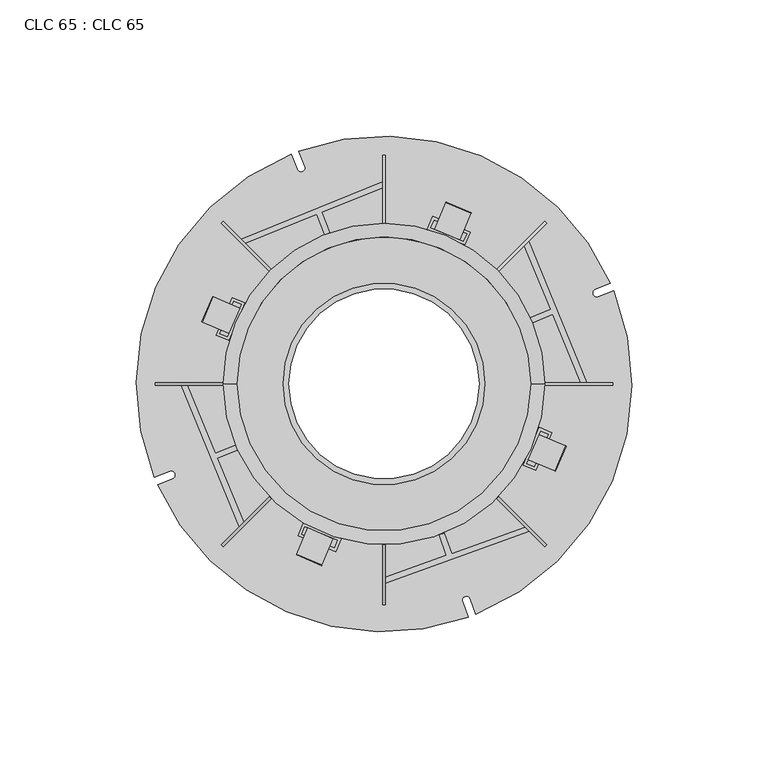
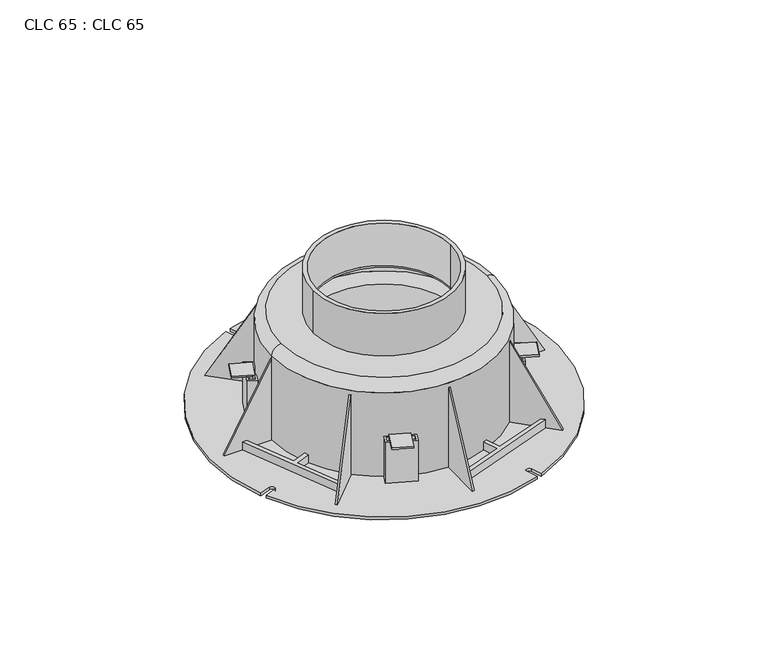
"""IFC4 building model written with IfcOpenShell, lengths in millimetres: proxy geometry, CLC 65 : CLC 65."""

from ifc_helpers import new_model, si_unit, point, frame, frame_2d, origin, origin_with_axes, origin_2d, place, context, project, spatial, polyline, circle_curve, ellipse_curve, trimmed, segment, composite_curve, outline, extrude, source, transform, mapped, element, save
from ifc_brep_helpers import plane_surface, cylinder_surface, revolved_surface, extruded_surface, advanced_brep


def clc_65_clc_65_d5194010(model_context):
    return source(origin(), model_context, "Body", "SolidModel", [
        extrude(outline(composite_curve([segment(trimmed(circle_curve(origin_2d(), 37.0), [point((-37.0, 0.0))], [point((37.0, 0.0))], False, "CARTESIAN"), True, "CONTINUOUS"), segment(trimmed(circle_curve(origin_2d(), 37.0), [point((37.0, 0.0))], [point((-37.0, 0.0))], False, "CARTESIAN"), True, "CONTINUOUS")], self_intersect=False), holes=[composite_curve([segment(trimmed(circle_curve(origin_2d(), 34.9), [point((-34.9, 0.0))], [point((34.9, 0.0))], True, "CARTESIAN"), True, "CONTINUOUS"), segment(trimmed(circle_curve(origin_2d(), 34.9), [point((34.9, 0.0))], [point((-34.9, 0.0))], True, "CARTESIAN"), True, "CONTINUOUS")], self_intersect=False)]), frame((0.0, 0.0, 53.0), z_axis=(0.0, 0.0, 1.0), x_axis=(1.0, 0.0, 0.0)), (0.0, 0.0, 1.0), 23.5),
        extrude(outline(polyline([(20.2073151, -55.4189041), (22.0886692, -54.7402975), (24.8030954, -62.2657138), (51.815281, -52.5223878), (53.377805, -54.0849118), (0.5, -73.1579962), (0.5, -71.031868), (22.9217414, -62.9443204), (20.2073151, -55.4189041)])), frame((0.0, 0.0, 1.5), z_axis=(0.0, 0.0, 1.0), x_axis=(1.0, 0.0, 0.0)), (0.0, 0.0, 1.0), 4.5),
        extrude(outline(polyline([(-54.5668459, -22.4160889), (-53.8065312, -24.2659326), (-61.2059058, -27.3071915), (-51.5375008, -50.8303941), (-53.0699749, -52.3628681), (-74.3864265, -0.5), (-72.2240816, -0.5), (-61.9662205, -25.4573479), (-54.5668459, -22.4160889)])), frame((0.0, 0.0, 1.5), z_axis=(0.0, 0.0, 1.0), x_axis=(1.0, 0.0, 0.0)), (0.0, 0.0, 1.0), 4.5),
        extrude(outline(polyline([(54.5284092, 22.5228399), (53.7680945, 24.3726836), (61.1674691, 27.4139425), (51.5465424, 50.8216306), (53.07383, 52.3667233), (74.3918662, 0.5), (72.2346596, 0.4874985), (61.9277838, 25.5640988), (54.5284092, 22.5228399)])), frame((0.0, 0.0, 1.5), z_axis=(0.0, 0.0, 1.0), x_axis=(1.0, 0.0, 0.0)), (0.0, 0.0, 1.0), 4.5),
        extrude(outline(polyline([(-19.9262914, 55.5664003), (-21.7805101, 54.8168184), (-24.7788377, 62.2336932), (-50.9476475, 51.6547543), (-52.4838634, 53.1909702), (-0.5, 74.2058394), (-0.5, 72.0485966), (-22.924619, 62.9832751), (-19.9262914, 55.5664003)])), frame((0.0, 0.0, 1.5), z_axis=(0.0, 0.0, 1.0), x_axis=(1.0, 0.0, 0.0)), (0.0, 0.0, 1.0), 4.5),
        advanced_brep(
        [(54.0, 0.0, 48.0), (54.0, 0.0, 52.0), (-54.0, 0.0, 52.0), (-54.0, 0.0, 48.0), (-59.0, 0.0, 48.0), (-54.0, 0.0, 53.0), (54.0, 0.0, 53.0), (59.0, 0.0, 48.0), (34.9, 0.0, 53.0), (-34.9, 0.0, 53.0), (34.9, 0.0, 52.0), (-34.9, 0.0, 52.0), (50.5, 0.0, 39.0), (-50.5, 0.0, 39.0), (40.0, 0.0, 39.0), (-40.0, 0.0, 39.0), (59.0, 0.0, 1.5), (-59.0, 0.0, 1.5), (40.0, 0.0, 1.5), (-40.0, 0.0, 1.5), (-50.5, 0.0, 48.0), (50.5, 0.0, 48.0)],
        [
            (0, 1),
            (1, 2, circle_curve(frame((0.0, 0.0, 52.0), z_axis=(0.0, 0.0, 1.0), x_axis=(-1.0, 0.0, 0.0)), 54.0)),
            (2, 3),
            (3, 0, circle_curve(frame((0.0, 0.0, 48.0), z_axis=(0.0, 0.0, -1.0), x_axis=(-1.0, 0.0, 0.0)), 54.0)),
            (4, 5, circle_curve(frame((-54.0, 0.0, 48.0), z_axis=(0.0, 1.0, 0.0), x_axis=(-1.0, 0.0, 0.0)), 5.0)),
            (5, 6, circle_curve(frame((0.0, 0.0, 53.0), z_axis=(0.0, 0.0, -1.0), x_axis=(-1.0, 0.0, 0.0)), 54.0)),
            (6, 7, circle_curve(frame((54.0, 0.0, 48.0), z_axis=(0.0, 1.0, 0.0), x_axis=(1.0, 0.0, 0.0)), 5.0)),
            (7, 4, circle_curve(frame((0.0, 0.0, 48.0), z_axis=(0.0, 0.0, 1.0), x_axis=(-1.0, 0.0, 0.0)), 59.0)),
            (0, 3, circle_curve(frame((0.0, 0.0, 48.0), z_axis=(0.0, 0.0, -1.0), x_axis=(1.0, 0.0, 0.0)), 54.0)),
            (2, 1, circle_curve(frame((0.0, 0.0, 52.0), z_axis=(0.0, 0.0, 1.0), x_axis=(1.0, 0.0, 0.0)), 54.0)),
            (4, 7, circle_curve(frame((0.0, 0.0, 48.0), z_axis=(0.0, 0.0, 1.0), x_axis=(1.0, 0.0, 0.0)), 59.0)),
            (6, 5, circle_curve(frame((0.0, 0.0, 53.0), z_axis=(0.0, 0.0, -1.0), x_axis=(1.0, 0.0, 0.0)), 54.0)),
            (8, 9, circle_curve(frame((0.0, 0.0, 53.0), z_axis=(0.0, 0.0, -1.0), x_axis=(1.0, 0.0, 0.0)), 34.9)),
            (9, 8, circle_curve(frame((0.0, 0.0, 53.0), z_axis=(0.0, 0.0, -1.0), x_axis=(1.0, 0.0, 0.0)), 34.9)),
            (10, 11, circle_curve(frame((0.0, 0.0, 52.0), z_axis=(0.0, 0.0, 1.0), x_axis=(1.0, 0.0, 0.0)), 34.9)),
            (11, 10, circle_curve(frame((0.0, 0.0, 52.0), z_axis=(0.0, 0.0, 1.0), x_axis=(1.0, 0.0, 0.0)), 34.9)),
            (12, 13, circle_curve(frame((0.0, 0.0, 39.0), z_axis=(0.0, 0.0, 1.0), x_axis=(1.0, 0.0, 0.0)), 50.5)),
            (13, 12, circle_curve(frame((0.0, 0.0, 39.0), z_axis=(0.0, 0.0, 1.0), x_axis=(1.0, 0.0, 0.0)), 50.5)),
            (14, 15, circle_curve(frame((0.0, 0.0, 39.0), z_axis=(0.0, 0.0, -1.0), x_axis=(1.0, 0.0, 0.0)), 40.0)),
            (15, 14, circle_curve(frame((0.0, 0.0, 39.0), z_axis=(0.0, 0.0, -1.0), x_axis=(1.0, 0.0, 0.0)), 40.0)),
            (16, 17, circle_curve(frame((0.0, 0.0, 1.5), z_axis=(0.0, 0.0, -1.0), x_axis=(1.0, 0.0, 0.0)), 59.0)),
            (17, 16, circle_curve(frame((0.0, 0.0, 1.5), z_axis=(0.0, 0.0, -1.0), x_axis=(1.0, 0.0, 0.0)), 59.0)),
            (18, 19, circle_curve(frame((0.0, 0.0, 1.5), z_axis=(0.0, 0.0, 1.0), x_axis=(1.0, 0.0, 0.0)), 40.0)),
            (19, 18, circle_curve(frame((0.0, 0.0, 1.5), z_axis=(0.0, 0.0, 1.0), x_axis=(1.0, 0.0, 0.0)), 40.0)),
            (14, 18),
            (19, 15),
            (20, 21, circle_curve(frame((0.0, 0.0, 48.0), z_axis=(0.0, 0.0, -1.0), x_axis=(1.0, 0.0, 0.0)), 50.5)),
            (21, 20, circle_curve(frame((0.0, 0.0, 48.0), z_axis=(0.0, 0.0, -1.0), x_axis=(1.0, 0.0, 0.0)), 50.5)),
            (20, 13),
            (12, 21),
            (17, 4),
            (7, 16),
            (8, 10),
            (11, 9),
        ],
        [
            revolved_surface(polyline([(-54.0, 0.0, 48.0), (-54.0, 0.0, 52.0)]), (0.0, 0.0, 0.0), (0.0, 0.0, -1.0)),
            revolved_surface(trimmed(ellipse_curve(frame((-54.0, 0.0, 48.0), z_axis=(0.0, -1.0, 0.0), x_axis=(-1.0, 0.0, 0.0)), 5.0, 5.0), [point((-54.0, 0.0, 53.0))], [point((-59.0, 0.0, 48.0))], True, "CARTESIAN"), (0.0, 0.0, 0.0), (0.0, 0.0, -1.0)),
            revolved_surface(polyline([(54.0, 0.0, 48.0), (54.0, 0.0, 52.0)]), (0.0, 0.0, 0.0), (0.0, 0.0, -1.0)),
            revolved_surface(trimmed(ellipse_curve(frame((54.0, 0.0, 48.0), z_axis=(0.0, 1.0, 0.0), x_axis=(1.0, 0.0, 0.0)), 5.0, 5.0), [point((54.0, 0.0, 53.0))], [point((59.0, 0.0, 48.0))], True, "CARTESIAN"), (0.0, 0.0, 0.0), (0.0, 0.0, -1.0)),
            plane_surface(frame((54.0, 0.0, 53.0), z_axis=(0.0, 0.0, 1.0), x_axis=(0.0, 1.0, 0.0))),
            plane_surface(frame((54.0, 0.0, 52.0), z_axis=(0.0, 0.0, -1.0), x_axis=(0.0, -1.0, 0.0))),
            plane_surface(frame((54.0, 0.0, 39.0), z_axis=(0.0, 0.0, 1.0), x_axis=(0.0, 1.0, 0.0))),
            plane_surface(frame((54.0, 0.0, 1.5), z_axis=(0.0, 0.0, -1.0), x_axis=(0.0, -1.0, 0.0))),
            revolved_surface(polyline([(40.0, 0.0, 1.5), (40.0, 0.0, 39.0)]), (0.0, 0.0, 1.0), (0.0, 0.0, -1.0)),
            plane_surface(frame((50.5, 0.0, 48.0), z_axis=(0.0, 0.0, 1.0), x_axis=(0.0, -1.0, 0.0))),
            revolved_surface(polyline([(50.5, 0.0, 39.0), (50.5, 0.0, 48.0)]), (0.0, 0.0, 1.5), (0.0, 0.0, -1.0)),
            cylinder_surface(frame((0.0, 0.0, 1.5), z_axis=(0.0, 0.0, 1.0), x_axis=(1.0, 0.0, 0.0)), 59.0),
            revolved_surface(polyline([(34.9, 0.0, 52.0), (34.9, 0.0, 53.0)]), (0.0, 0.0, 52.0), (0.0, 0.0, -1.0)),
        ],
        [
            (0, [[1, 2, 3, 4]]),
            (1, [[5, 6, 7, 8]]),
            (2, [[-1, 9, -3, 10]]),
            (3, [[-5, 11, -7, 12]]),
            (4, [[-6, -12], [13, 14]]),
            (5, [[-2, -10], [15, 16]]),
            (6, [[17, 18], [19, 20]]),
            (7, [[21, 22], [23, 24]]),
            (8, [[-19, 25, -24, 26]]),
            (8, [[-20, -26, -23, -25]]),
            (9, [[-4, -9], [27, 28]]),
            (10, [[-27, 29, -17, 30]]),
            (10, [[-28, -30, -18, -29]]),
            (11, [[-22, 31, -8, 32]]),
            (11, [[-21, -32, -11, -31]]),
            (12, [[-13, 33, -16, 34]]),
            (12, [[-14, -34, -15, -33]]),
        ],
    ),
        extrude(outline(composite_curve([segment(trimmed(circle_curve(origin_2d(), 52.0), [point((24.7583425, 45.7277211))], [point((49.6213596, -15.5473685))], False, "CARTESIAN"), True, "CONTINUOUS"), segment(polyline([(49.6213596, -15.5473685), (56.7505693, -18.5609991), (52.8569897, -27.7718643), (45.72778, -24.7582337)]), True, "CONTINUOUS"), segment(trimmed(circle_curve(origin_2d(), 52.0), [point((45.72778, -24.7582337))], [point((-15.6888479, -49.5768096))], False, "CARTESIAN"), True, "CONTINUOUS"), segment(polyline([(-15.6888479, -49.5768096), (-18.6913381, -56.6797235), (-27.9022148, -52.7861712), (-24.8886054, -45.6569526)]), True, "CONTINUOUS"), segment(trimmed(circle_curve(origin_2d(), 52.0), [point((-24.8886054, -45.6569526))], [point((-49.6193646, 15.5537345))], False, "CARTESIAN"), True, "CONTINUOUS"), segment(polyline([(-49.6193646, 15.5537345), (-56.7481876, 18.5682797), (-52.8534263, 27.7786453), (-45.7246033, 24.7641001)]), True, "CONTINUOUS"), segment(trimmed(circle_curve(origin_2d(), 52.0), [point((-45.7246033, 24.7641001))], [point((15.5474866, 49.6213226))], False, "CARTESIAN"), True, "CONTINUOUS"), segment(polyline([(15.5474866, 49.6213226), (18.5611342, 56.7505251), (27.7719901, 52.8569236), (24.7583425, 45.7277211)]), True, "CONTINUOUS")], self_intersect=False), holes=[composite_curve([segment(trimmed(circle_curve(origin_2d(), 40.0), [point((-40.0, 0.0))], [point((40.0, 0.0))], True, "CARTESIAN"), True, "CONTINUOUS"), segment(trimmed(circle_curve(origin_2d(), 40.0), [point((40.0, 0.0))], [point((-40.0, 0.0))], True, "CARTESIAN"), True, "CONTINUOUS")], self_intersect=False)]), frame((0.0, 0.0, 5.0), z_axis=(0.0, 0.0, 1.0), x_axis=(1.0, 0.0, 0.0)), (0.0, 0.0, 1.0), 1.0),
        extrude(outline(polyline([(46.5, -59.0), (1.5, -84.0), (1.5, -59.0), (46.5, -59.0)])), frame((0.0, -0.5, 0.0), z_axis=(0.0, 1.0, 0.0), x_axis=(0.0, 0.0, 1.0)), (0.0, 0.0, 1.0), 1.0),
        extrude(outline(polyline([(0.0, 0.0), (51.4781507, 0.0), (39.3370774, -21.8539319), (0.0, 0.0)])), frame((-42.0711032, 41.3639964, 46.5), z_axis=(0.7071067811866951, 0.7071067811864, 0.0), x_axis=(-0.34340140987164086, 0.3434014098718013, -0.874157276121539)), (0.0, 0.0, 1.0), 1.0),
        extrude(outline(polyline([(45.0, 0.0), (0.0, -25.0), (0.0, 0.0), (45.0, 0.0)])), frame((-0.5, 58.9978813, 1.5), z_axis=(1.0, -2.8820179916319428e-11, -9.285588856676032e-12), x_axis=(9.285588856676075e-12, 0.0, 1.0)), (0.0, 0.0, 1.0), 1.0),
        extrude(outline(polyline([(-45.0, 0.0), (0.0, 0.0), (0.0, -25.0), (-45.0, 0.0)])), frame((42.0711032, 41.3639964, 1.5), z_axis=(-0.7071067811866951, 0.7071067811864, 0.0), x_axis=(0.0, 0.0, -1.0)), (0.0, 0.0, 1.0), 1.0),
        extrude(outline(polyline([(46.5, 59.0), (1.5, 59.0), (1.5, 84.0), (46.5, 59.0)])), frame((0.0, -0.5, 0.0), z_axis=(0.0, 1.0, 0.0), x_axis=(0.0, 0.0, 1.0)), (0.0, 0.0, 1.0), 1.0),
        extrude(outline(polyline([(50.0899191, 0.0), (9.6626229, -19.7644559), (0.0, 0.0), (50.0899191, 0.0)])), frame((-0.5, -80.9978813, 1.5), z_axis=(1.0, 2.882017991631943e-11, -9.285588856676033e-12), x_axis=(-4.3160872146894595e-12, 0.43921013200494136, 0.8983843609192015)), (0.0, 0.0, 1.0), 1.0),
        extrude(outline(polyline([(51.4781507, 0.0), (12.1410733, -21.8539319), (0.0, 0.0), (51.4781507, 0.0)])), frame((59.0416659, -59.7487727, 1.5), z_axis=(0.7071067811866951, 0.7071067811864, 0.0), x_axis=(-0.3434014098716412, 0.34340140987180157, 0.8741572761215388)), (0.0, 0.0, 1.0), 1.0),
        extrude(outline(polyline([(45.0, 0.0), (0.0, -25.0), (0.0, 0.0), (45.0, 0.0)])), frame((-41.3639964, -42.0711032, 1.5), z_axis=(-0.7071067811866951, 0.7071067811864, 0.0), x_axis=(0.0, 0.0, 1.0)), (0.0, 0.0, 1.0), 1.0),
        advanced_brep(
        [(-18.7307472, -56.773359, 25.4), (-22.8189851, -66.4447762, 25.4), (-22.8189851, -66.4447762, 24.4), (-19.1201032, -57.6944464, 24.4), (-19.1201032, -57.6944464, 1.0), (-18.7307472, -56.773359, 1.0), (-27.9416207, -52.8797991, 25.4), (-27.9416207, -52.8797991, 1.0), (-28.3309767, -53.8008865, 1.0), (-28.3309767, -53.8008865, 24.4), (-32.0298586, -62.5512163, 24.4), (-32.0298586, -62.5512163, 25.4)],
        [
            (0, 1),
            (1, 2, ellipse_curve(frame((-22.8189851, -66.4447762, 24.9), z_axis=(0.9210873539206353, -0.38935598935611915, 0.0), x_axis=(0.0, 0.0, 1.0)), 0.5, 0.25)),
            (2, 3),
            (3, 4),
            (4, 5),
            (5, 0),
            (6, 7),
            (7, 8),
            (8, 9),
            (9, 10),
            (10, 11, ellipse_curve(frame((-32.0298586, -62.5512163, 24.9), z_axis=(-0.9210873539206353, 0.38935598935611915, 0.0), x_axis=(0.0, 0.0, 1.0)), 0.5, 0.25)),
            (11, 6),
            (0, 6),
            (11, 1),
            (10, 2),
            (9, 3),
            (8, 4),
            (7, 5),
        ],
        [
            plane_surface(frame((-18.7307472, -56.773359, 25.4), z_axis=(0.9210873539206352, -0.38935598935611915, 0.0), x_axis=(-0.38935598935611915, -0.9210873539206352, 0.0))),
            plane_surface(frame((-27.9416207, -52.8797991, 25.4), z_axis=(-0.9210873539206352, 0.38935598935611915, 0.0), x_axis=(0.38935598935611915, 0.9210873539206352, 0.0))),
            plane_surface(frame((-18.7307472, -56.773359, 25.4), z_axis=(0.0, 0.0, 1.0), x_axis=(-0.9210873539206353, 0.38935598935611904, 0.0))),
            extruded_surface(trimmed(ellipse_curve(frame((-41.2407321, -58.6576564, 24.9), z_axis=(0.9210873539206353, -0.38935598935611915, 0.0), x_axis=(0.0, 0.0, 1.0)), 0.5, 0.25), [point((-41.2407321, -58.6576564, 25.4))], [point((-41.2407321, -58.6576564, 24.4))], True, "CARTESIAN"), (9.210873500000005, -3.8935598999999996, 0.0), 9.999999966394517),
            plane_surface(frame((-22.8189851, -66.4447762, 24.4), z_axis=(0.0, 0.0, -1.0), x_axis=(-0.9210873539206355, 0.3893559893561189, 0.0))),
            plane_surface(frame((-19.1201032, -57.6944464, 24.4), z_axis=(-0.3893559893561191, -0.9210873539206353, 0.0), x_axis=(-0.9210873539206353, 0.3893559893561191, 0.0))),
            plane_surface(frame((-19.1201032, -57.6944464, 1.0), z_axis=(0.0, 0.0, -1.0), x_axis=(-0.9210873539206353, 0.3893559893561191, 0.0))),
            plane_surface(frame((-18.7307472, -56.773359, 1.0), z_axis=(0.38935598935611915, 0.9210873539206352, 0.0), x_axis=(-0.9210873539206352, 0.38935598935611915, 0.0))),
        ],
        [
            (0, [[1, 2, 3, 4, 5, 6]]),
            (1, [[7, 8, 9, 10, 11, 12]]),
            (2, [[-1, 13, -12, 14]]),
            (3, [[-2, -14, -11, 15]]),
            (4, [[-3, -15, -10, 16]]),
            (5, [[-4, -16, -9, 17]]),
            (6, [[-5, -17, -8, 18]]),
            (7, [[-6, -18, -7, -13]]),
        ],
    ),
        extrude(outline(polyline([(-29.6103991, -51.1254986), (-15.7779457, -56.927501), (-17.7119465, -61.5383188), (-31.5443999, -55.7363164), (-29.6103991, -51.1254986)]), holes=[polyline([(-29.0750357, -52.4344623), (-30.2354362, -55.200953), (-18.2473099, -60.229355), (-17.0869094, -57.4628644), (-29.0750357, -52.4344623)])]), frame((0.0, 0.0, 1.5), z_axis=(0.0, 0.0, 1.0), x_axis=(1.0, 0.0, 0.0)), (0.0, 0.0, 1.0), 22.5),
        extrude(outline(polyline([(15.9061908, 56.8967888), (17.8551838, 61.5012895), (31.6686857, 55.6543105), (29.7196927, 51.0498098), (15.9061908, 56.8967888)]), holes=[polyline([(17.2168895, 57.4278903), (29.1885912, 52.3605086), (30.357987, 55.123209), (18.3862853, 60.1905907), (17.2168895, 57.4278903)])]), frame((0.0, 0.0, 1.5), z_axis=(0.0, 0.0, 1.0), x_axis=(1.0, 0.0, 0.0)), (0.0, 0.0, 1.0), 22.5),
        advanced_brep(
        [(56.9399677, -18.6410609, 25.4), (66.6113762, -22.7293195, 25.4), (66.6113762, -22.7293195, 24.4), (57.8610542, -19.0304188, 24.4), (57.8610542, -19.0304188, 1.0), (56.9399677, -18.6410609, 1.0), (53.0463881, -27.8519261, 25.4), (53.0463881, -27.8519261, 1.0), (53.9674746, -28.241284, 1.0), (53.9674746, -28.241284, 24.4), (62.7177965, -31.9401847, 24.4), (62.7177965, -31.9401847, 25.4)],
        [
            (0, 1),
            (1, 2, ellipse_curve(frame((66.6113762, -22.7293195, 24.9), z_axis=(0.38935796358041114, 0.9210865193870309, 0.0), x_axis=(0.0, 0.0, 1.0)), 0.5, 0.25)),
            (2, 3),
            (3, 4),
            (4, 5),
            (5, 0),
            (6, 7),
            (7, 8),
            (8, 9),
            (9, 10),
            (10, 11, ellipse_curve(frame((62.7177965, -31.9401847, 24.9), z_axis=(-0.38935796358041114, -0.9210865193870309, 0.0), x_axis=(0.0, 0.0, 1.0)), 0.5, 0.25)),
            (11, 6),
            (0, 6),
            (11, 1),
            (10, 2),
            (9, 3),
            (8, 4),
            (7, 5),
        ],
        [
            plane_surface(frame((56.9399677, -18.6410609, 25.4), z_axis=(0.3893579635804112, 0.921086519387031, 0.0), x_axis=(0.921086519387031, -0.3893579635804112, 0.0))),
            plane_surface(frame((53.0463881, -27.8519261, 25.4), z_axis=(-0.3893579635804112, -0.921086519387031, 0.0), x_axis=(-0.921086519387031, 0.3893579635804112, 0.0))),
            plane_surface(frame((56.9399677, -18.6410609, 25.4), z_axis=(0.0, 0.0, 1.0), x_axis=(-0.38935796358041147, -0.9210865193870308, 0.0))),
            extruded_surface(trimmed(ellipse_curve(frame((58.8242169, -41.1510499, 24.9), z_axis=(0.38935796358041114, 0.9210865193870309, 0.0), x_axis=(0.0, 0.0, 1.0)), 0.5, 0.25), [point((58.8242169, -41.1510499, 25.4))], [point((58.8242169, -41.1510499, 24.4))], True, "CARTESIAN"), (3.8935795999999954, 9.210865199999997, 0.0), 9.999999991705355),
            plane_surface(frame((66.6113762, -22.7293195, 24.4), z_axis=(0.0, 0.0, -1.0), x_axis=(-0.3893579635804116, -0.9210865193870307, 0.0))),
            plane_surface(frame((57.8610542, -19.0304188, 24.4), z_axis=(0.9210865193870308, -0.38935796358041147, 0.0), x_axis=(-0.38935796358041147, -0.9210865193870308, 0.0))),
            plane_surface(frame((57.8610542, -19.0304188, 1.0), z_axis=(0.0, 0.0, -1.0), x_axis=(-0.3893579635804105, -0.9210865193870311, 0.0))),
            plane_surface(frame((56.9399677, -18.6410609, 1.0), z_axis=(-0.9210865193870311, 0.38935796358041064, 0.0), x_axis=(-0.38935796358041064, -0.9210865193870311, 0.0))),
        ],
        [
            (0, [[1, 2, 3, 4, 5, 6]]),
            (1, [[7, 8, 9, 10, 11, 12]]),
            (2, [[-1, 13, -12, 14]]),
            (3, [[-2, -14, -11, 15]]),
            (4, [[-3, -15, -10, 16]]),
            (5, [[-4, -16, -9, 17]]),
            (6, [[-5, -17, -8, 18]]),
            (7, [[-6, -18, -7, -13]]),
        ],
    ),
        extrude(outline(polyline([(56.9848309, -15.9696441), (61.5893315, -17.9186371), (55.7423526, -31.7321391), (51.1378519, -29.7831461), (56.9848309, -15.9696441)]), holes=[polyline([(57.5159324, -17.2803428), (52.4485506, -29.2520445), (55.211251, -30.4214403), (60.2786328, -18.4497386), (57.5159324, -17.2803428)])]), frame((0.0, 0.0, 1.5), z_axis=(0.0, 0.0, 1.0), x_axis=(1.0, 0.0, 0.0)), (0.0, 0.0, 1.0), 22.5),
        advanced_brep(
        [(-56.9381578, 18.6486119, 25.4), (-66.6090417, 22.7381112, 25.4), (-66.6090417, 22.7381112, 24.4), (-57.8591944, 19.038088, 24.4), (-57.8591944, 19.038088, 1.0), (-56.9381578, 18.6486119, 1.0), (-53.0433965, 27.8589775, 25.4), (-53.0433965, 27.8589775, 1.0), (-53.9644331, 28.2484536, 1.0), (-53.9644331, 28.2484536, 24.4), (-62.7142804, 31.9484768, 24.4), (-62.7142804, 31.9484768, 25.4)],
        [
            (0, 1),
            (1, 2, ellipse_curve(frame((-66.6090417, 22.7381112, 24.9), z_axis=(-0.3894761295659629, -0.921036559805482, 0.0), x_axis=(0.0, 0.0, 1.0)), 0.5, 0.25)),
            (2, 3),
            (3, 4),
            (4, 5),
            (5, 0),
            (6, 7),
            (7, 8),
            (8, 9),
            (9, 10),
            (10, 11, ellipse_curve(frame((-62.7142804, 31.9484768, 24.9), z_axis=(0.3894761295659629, 0.921036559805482, 0.0), x_axis=(0.0, 0.0, 1.0)), 0.5, 0.25)),
            (11, 6),
            (0, 6),
            (11, 1),
            (10, 2),
            (9, 3),
            (8, 4),
            (7, 5),
        ],
        [
            plane_surface(frame((-56.9381578, 18.6486119, 25.4), z_axis=(-0.38947612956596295, -0.921036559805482, 0.0), x_axis=(-0.921036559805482, 0.38947612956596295, 0.0))),
            plane_surface(frame((-53.0433965, 27.8589775, 25.4), z_axis=(0.38947612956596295, 0.921036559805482, 0.0), x_axis=(0.921036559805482, -0.38947612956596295, 0.0))),
            plane_surface(frame((-56.9381578, 18.6486119, 25.4), z_axis=(0.0, 0.0, 1.0), x_axis=(0.38947612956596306, 0.9210365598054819, 0.0))),
            extruded_surface(trimmed(ellipse_curve(frame((-58.8195191, 41.1588424, 24.9), z_axis=(-0.3894761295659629, -0.921036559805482, 0.0), x_axis=(0.0, 0.0, 1.0)), 0.5, 0.25), [point((-58.8195191, 41.1588424, 25.4))], [point((-58.8195191, 41.1588424, 24.4))], True, "CARTESIAN"), (-3.894761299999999, -9.210365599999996, 0.0), 10.000000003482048),
            plane_surface(frame((-66.6090417, 22.7381112, 24.4), z_axis=(0.0, 0.0, -1.0000000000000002), x_axis=(0.3894761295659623, 0.9210365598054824, 0.0))),
            plane_surface(frame((-57.8591944, 19.038088, 24.4), z_axis=(-0.921036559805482, 0.389476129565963, 0.0), x_axis=(0.389476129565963, 0.921036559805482, 0.0))),
            plane_surface(frame((-57.8591944, 19.038088, 1.0), z_axis=(0.0, 0.0, -1.0), x_axis=(0.389476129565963, 0.921036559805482, 0.0))),
            plane_surface(frame((-56.9381578, 18.6486119, 1.0), z_axis=(0.9210365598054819, -0.38947612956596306, 0.0), x_axis=(0.38947612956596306, 0.9210365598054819, 0.0))),
        ],
        [
            (0, [[1, 2, 3, 4, 5, 6]]),
            (1, [[7, 8, 9, 10, 11, 12]]),
            (2, [[-1, 13, -12, 14]]),
            (3, [[-2, -14, -11, 15]]),
            (4, [[-3, -15, -10, 16]]),
            (5, [[-4, -16, -9, 17]]),
            (6, [[-5, -17, -8, 18]]),
            (7, [[-6, -18, -7, -13]]),
        ],
    ),
        extrude(outline(polyline([(-51.1462703, 29.7777667), (-56.9884123, 15.9622183), (-61.5935951, 17.9095989), (-55.7514531, 31.7251473), (-51.1462703, 29.7777667)]), holes=[polyline([(-52.456783, 29.2462063), (-55.2198927, 30.4146346), (-60.2830824, 18.4411594), (-57.5199727, 17.272731), (-52.456783, 29.2462063)])]), frame((0.0, 0.0, 1.5), z_axis=(0.0, 0.0, 1.0), x_axis=(1.0, 0.0, 0.0)), (0.0, 0.0, 1.0), 22.5),
        extrude(outline(composite_curve([segment(polyline([(-78.6817584, -32.013278), (-84.2821056, -34.3151085)]), True, "CONTINUOUS"), segment(trimmed(circle_curve(origin_2d(), 91.0), [point((-84.2821056, -34.3151085))], [point((-34.1059767, 84.3669506))], False, "CARTESIAN"), True, "CONTINUOUS"), segment(polyline([(-34.1059767, 84.3669506), (-31.8386923, 78.758436)]), True, "CONTINUOUS"), segment(trimmed(circle_curve(frame_2d((-30.4480283, 79.3206224)), 1.5), [point((-31.8386923, 78.758436))], [point((-29.0573643, 79.8828089))], True, "CARTESIAN"), True, "CONTINUOUS"), segment(polyline([(-29.0573643, 79.8828089), (-31.30611, 85.4454649)]), True, "CONTINUOUS"), segment(trimmed(circle_curve(origin_2d(), 91.0), [point((-31.30611, 85.4454649))], [point((83.1095156, 37.0649217))], False, "CARTESIAN"), True, "CONTINUOUS"), segment(polyline([(83.1095156, 37.0649217), (77.5480683, 34.7790797)]), True, "CONTINUOUS"), segment(trimmed(circle_curve(frame_2d((78.1183043, 33.391697)), 1.5), [point((77.5480683, 34.7790797))], [point((78.6885404, 32.0043142))], True, "CARTESIAN"), True, "CONTINUOUS"), segment(polyline([(78.6885404, 32.0043142), (84.2862036, 34.3050416)]), True, "CONTINUOUS"), segment(trimmed(circle_curve(origin_2d(), 91.0), [point((84.2862036, 34.3050416))], [point((33.6818461, -84.5371708))], False, "CARTESIAN"), True, "CONTINUOUS"), segment(polyline([(33.6818461, -84.5371708), (31.6460264, -78.8931086)]), True, "CONTINUOUS"), segment(trimmed(circle_curve(frame_2d((30.2350109, -79.4020635)), 1.5), [point((31.6460264, -78.8931086))], [point((28.8239953, -79.9110184))], True, "CARTESIAN"), True, "CONTINUOUS"), segment(polyline([(28.8239953, -79.9110184), (30.8765983, -85.6016103)]), True, "CONTINUOUS"), segment(trimmed(circle_curve(origin_2d(), 91.0), [point((30.8765983, -85.6016103))], [point((-83.105086, -37.0748524))], False, "CARTESIAN"), True, "CONTINUOUS"), segment(polyline([(-83.105086, -37.0748524), (-77.5412863, -34.7880435)]), True, "CONTINUOUS"), segment(trimmed(circle_curve(frame_2d((-78.1115223, -33.4006607)), 1.5), [point((-77.5412863, -34.7880435))], [point((-78.6817584, -32.013278))], True, "CARTESIAN"), True, "CONTINUOUS")], self_intersect=False), holes=[composite_curve([segment(polyline([(-55.2678498, 17.9422934), (-49.5268314, 15.5146052)]), True, "CONTINUOUS"), segment(trimmed(circle_curve(origin_2d(), 51.9), [point((-49.5268314, 15.5146052))], [point((-24.8494761, -45.5643889))], True, "CARTESIAN"), True, "CONTINUOUS"), segment(polyline([(-24.8494761, -45.5643889), (-27.2765903, -51.3061508), (-18.0683848, -55.1985829), (-15.6525091, -49.483421)]), True, "CONTINUOUS"), segment(trimmed(circle_curve(origin_2d(), 51.9), [point((-15.6525091, -49.483421))], [point((45.6352417, -24.7191163))], True, "CARTESIAN"), True, "CONTINUOUS"), segment(polyline([(45.6352417, -24.7191163), (51.3765716, -27.146068), (55.2701512, -17.9352028), (49.5288214, -15.5082511)]), True, "CONTINUOUS"), segment(trimmed(circle_curve(origin_2d(), 51.9), [point((49.5288214, -15.5082511))], [point((24.7192249, 45.6351829))], True, "CARTESIAN"), True, "CONTINUOUS"), segment(polyline([(24.7192249, 45.6351829), (27.1461903, 51.376507), (17.9353343, 55.2701085), (15.508369, 49.5287845)]), True, "CONTINUOUS"), segment(trimmed(circle_curve(origin_2d(), 51.9), [point((15.508369, 49.5287845))], [point((-45.6320701, 24.7249708))], True, "CARTESIAN"), True, "CONTINUOUS"), segment(polyline([(-45.6320701, 24.7249708), (-51.3730885, 27.152659), (-55.2678498, 17.9422934)]), True, "CONTINUOUS")], self_intersect=False)]), origin_with_axes(), (0.0, 0.0, 1.0), 1.5),
        advanced_brep(
        [(18.6019406, 56.845709, 25.4), (22.6902222, 66.5171077, 25.4), (22.6902222, 66.5171077, 24.4), (18.9913007, 57.7667946, 24.4), (18.9913007, 57.7667946, 1.5), (18.6019406, 56.845709, 1.5), (27.8127965, 52.9521074, 25.4), (27.8127965, 52.9521074, 1.5), (28.2021567, 53.873193, 1.5), (28.2021567, 53.873193, 24.4), (31.9010781, 62.6235061, 24.4), (31.9010781, 62.6235061, 25.4)],
        [
            (0, 1),
            (1, 2, ellipse_curve(frame((22.6902222, 66.5171077, 24.9), z_axis=(-0.9210855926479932, 0.3893601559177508, 0.0), x_axis=(0.0, 0.0, 1.0)), 0.5, 0.25)),
            (2, 3),
            (3, 4),
            (4, 5),
            (5, 0),
            (6, 7),
            (7, 8),
            (8, 9),
            (9, 10),
            (10, 11, ellipse_curve(frame((31.9010781, 62.6235061, 24.9), z_axis=(0.9210855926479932, -0.3893601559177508, 0.0), x_axis=(0.0, 0.0, 1.0)), 0.5, 0.25)),
            (11, 6),
            (0, 6),
            (11, 1),
            (10, 2),
            (9, 3),
            (8, 4),
            (7, 5),
        ],
        [
            plane_surface(frame((18.6019406, 56.845709, 25.4), z_axis=(-0.9210855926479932, 0.3893601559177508, 0.0), x_axis=(0.3893601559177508, 0.9210855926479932, 0.0))),
            plane_surface(frame((27.8127965, 52.9521074, 25.4), z_axis=(0.9210855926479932, -0.3893601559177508, 0.0), x_axis=(-0.3893601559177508, -0.9210855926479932, 0.0))),
            plane_surface(frame((18.6019406, 56.845709, 25.4), z_axis=(0.0, 0.0, 1.0), x_axis=(0.9210855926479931, -0.3893601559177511, 0.0))),
            extruded_surface(trimmed(ellipse_curve(frame((41.1119341, 58.7299046, 24.9), z_axis=(-0.9210855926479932, 0.3893601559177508, 0.0), x_axis=(0.0, 0.0, 1.0)), 0.5, 0.25), [point((41.1119341, 58.7299046, 25.4))], [point((41.1119341, 58.7299046, 24.4))], True, "CARTESIAN"), (-9.210856, 3.8936015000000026, 0.0), 10.000000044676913),
            plane_surface(frame((22.6902222, 66.5171077, 24.4), z_axis=(0.0, 0.0, -1.0), x_axis=(0.9210855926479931, -0.3893601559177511, 0.0))),
            plane_surface(frame((18.9913007, 57.7667946, 24.4), z_axis=(0.3893601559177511, 0.9210855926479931, 0.0), x_axis=(0.9210855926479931, -0.3893601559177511, 0.0))),
            plane_surface(frame((18.9913007, 57.7667946, 1.5), z_axis=(0.0, 0.0, -1.0), x_axis=(0.9210855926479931, -0.3893601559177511, 0.0))),
            plane_surface(frame((18.6019406, 56.845709, 1.5), z_axis=(-0.3893601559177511, -0.9210855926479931, 0.0), x_axis=(0.9210855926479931, -0.3893601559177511, 0.0))),
        ],
        [
            (0, [[1, 2, 3, 4, 5, 6]]),
            (1, [[7, 8, 9, 10, 11, 12]]),
            (2, [[-1, 13, -12, 14]]),
            (3, [[-2, -14, -11, 15]]),
            (4, [[-3, -15, -10, 16]]),
            (5, [[-4, -16, -9, 17]]),
            (6, [[-5, -17, -8, 18]]),
            (7, [[-6, -18, -7, -13]]),
        ],
    ),
        extrude(outline(composite_curve([segment(trimmed(circle_curve(origin_2d(), 41.5), [point((-41.5, 0.0))], [point((41.5, 0.0))], False, "CARTESIAN"), True, "CONTINUOUS"), segment(trimmed(circle_curve(origin_2d(), 41.5), [point((41.5, 0.0))], [point((-41.5, 0.0))], False, "CARTESIAN"), True, "CONTINUOUS")], self_intersect=False), holes=[composite_curve([segment(trimmed(circle_curve(origin_2d(), 40.0), [point((-40.0, 0.0))], [point((40.0, 0.0))], True, "CARTESIAN"), True, "CONTINUOUS"), segment(trimmed(circle_curve(origin_2d(), 40.0), [point((40.0, 0.0))], [point((-40.0, 0.0))], True, "CARTESIAN"), True, "CONTINUOUS")], self_intersect=False)]), frame((0.0, 0.0, 6.0), z_axis=(0.0, 0.0, 1.0), x_axis=(1.0, 0.0, 0.0)), (0.0, 0.0, 1.0), 3.5),
    ])


if __name__ == "__main__":
    model = new_model("IFC4")
    model_context = context("Model", 3, world=origin())
    ifc_project = project(units=[si_unit("LENGTHUNIT", "METRE", prefix="MILLI")], contexts=[model_context])
    site = spatial("IfcSite", under=ifc_project)
    building = spatial("IfcBuilding", under=site)
    placement = place(None, origin())
    clc_65_clc_65_shape = clc_65_clc_65_d5194010(model_context)
    element("IfcBuildingElementProxy", 1, Name="CLC 65 : CLC 65", ObjectType="CLC 65 : CLC 65", at=placement, inside=building, context=model_context, shape_type="MappedRepresentation", body=[
        mapped(clc_65_clc_65_shape, transform((0.0, 0.0, 0.0), x_axis=(1.0, 0.0, 0.0), y_axis=(0.0, 1.0, 0.0), z_axis=(0.0, 0.0, 1.0))),
    ])
    save(model, "model.ifc")
